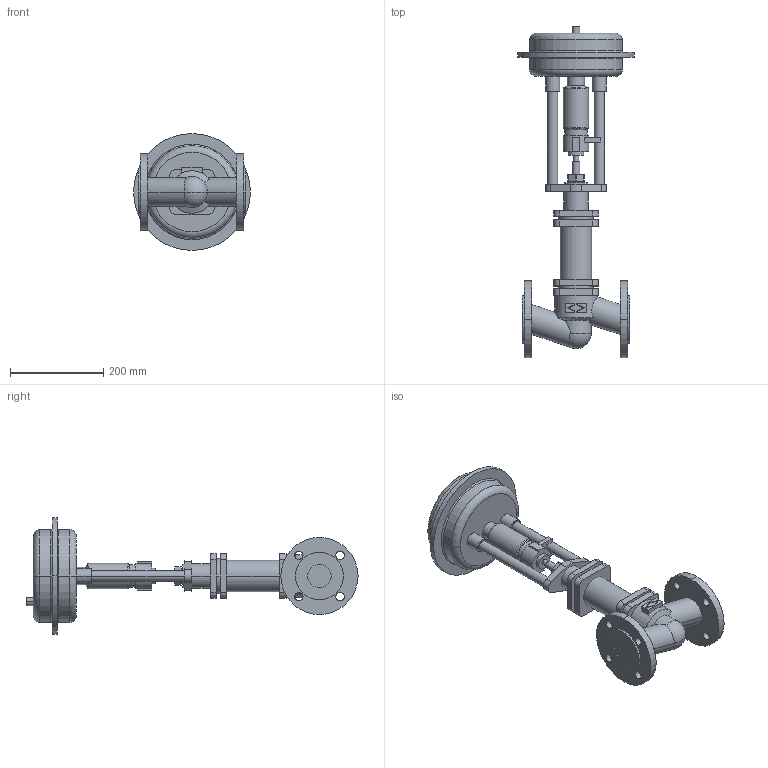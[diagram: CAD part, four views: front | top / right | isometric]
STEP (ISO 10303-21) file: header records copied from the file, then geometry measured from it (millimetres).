
FILE_DESCRIPTION(('OneSpaceDesigner STEP Export'),'2;1');
FILE_NAME('c000000378.stp','2005-12-12T10:37:19',(''),(''),'OneSpace Designer STEP processor for AP203 (Solid Model)','OneSpace Designer 13.20A 18-Aug-2005 (C) CoCreate Software GmbH','');
FILE_SCHEMA(('CONFIG_CONTROL_DESIGN'));
Length unit declared in the file: millimetre
Products named in the file (1): 1
Bounding box: 250 x 710.5 x 250 mm (x, y, z)
Volume: 6316947.6 mm3; surface area: 475552.7 mm2
Topology: 1 solids, 1 shells, 218 faces, 539 edges, 353 vertices
Faces by surface type: cylinder 104, plane 90, torus 16, cone 6, sphere 2
Entity records: 6173 total; most frequent: CARTESIAN_POINT 1239, ORIENTED_EDGE 1074, DIRECTION 925, EDGE_CURVE 537, VERTEX_POINT 353, AXIS2_PLACEMENT_3D 332, EDGE_LOOP 270, VECTOR 261
